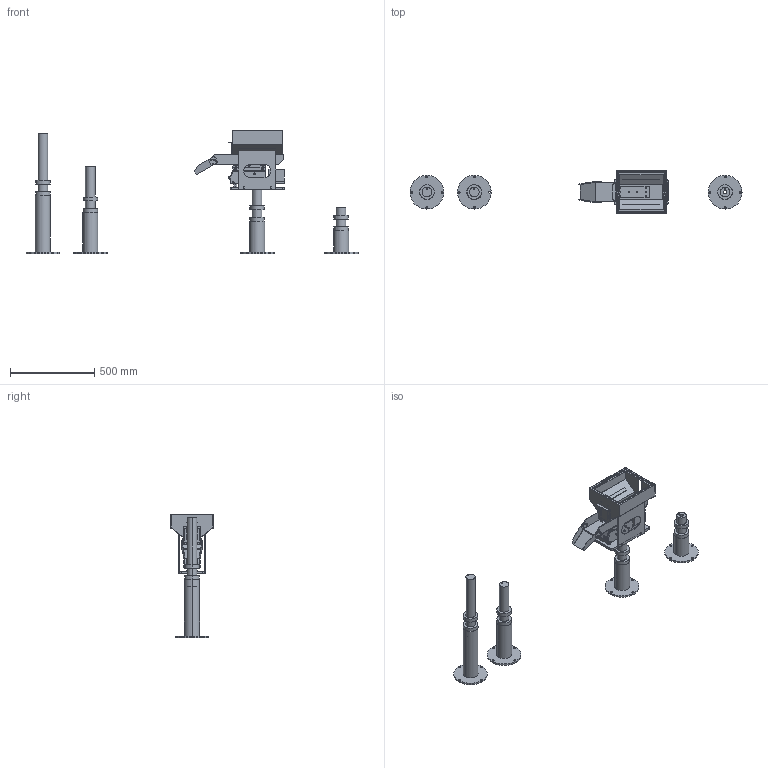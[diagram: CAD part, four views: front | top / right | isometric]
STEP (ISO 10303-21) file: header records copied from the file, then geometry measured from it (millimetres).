
FILE_DESCRIPTION (( 'STEP AP203' ), '1' );
FILE_NAME ('300蹋累 盓翐恁倰-0.STEP', '2025-07-11T08:40:38', ( '' ), ( '' ), 'SwSTEP 2.0', 'SolidWorks 2022', '' );
FILE_SCHEMA (( 'CONFIG_CONTROL_DESIGN' ));
Length unit declared in the file: millimetre
Products named in the file (1): 300蹋累 盓翐恁倰-0
Bounding box: 1967.79 x 250 x 733.7 mm (x, y, z)
Volume: 8849475.8 mm3; surface area: 2383470.9 mm2
Topology: 85 solids, 85 shells, 1194 faces, 2938 edges, 1952 vertices
Faces by surface type: plane 630, cylinder 492, bspline 64, cone 8
Entity records: 37419 total; most frequent: CARTESIAN_POINT 8201, DIRECTION 6104, ORIENTED_EDGE 5860, EDGE_CURVE 2930, AXIS2_PLACEMENT_3D 2175, VERTEX_POINT 1952, VECTOR 1754, LINE 1754
